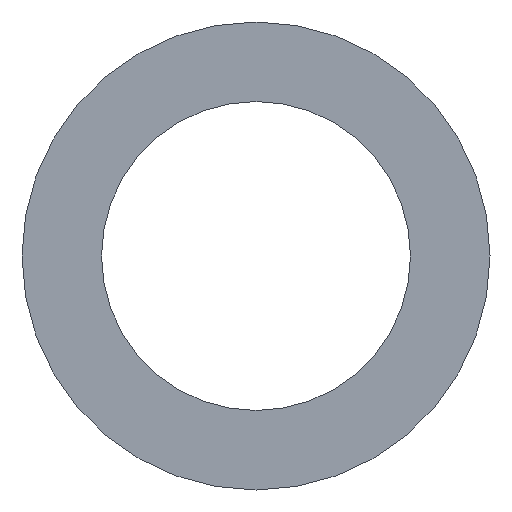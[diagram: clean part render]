
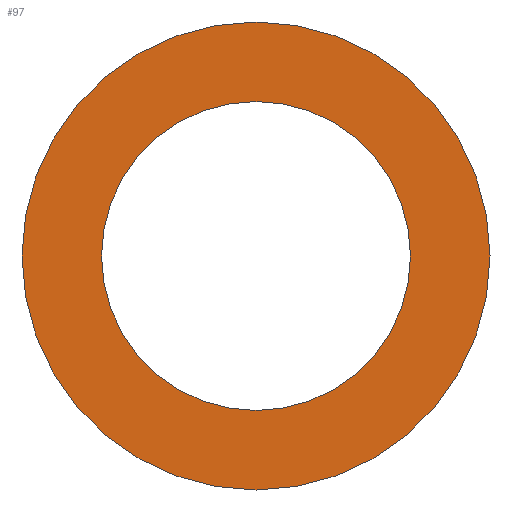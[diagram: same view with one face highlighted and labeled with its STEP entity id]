
A CAD part, front view. The second image highlights one B-rep face of the part: STEP entity #97.
In plain terms, the highlighted planar face has unit normal (0, -1, 0).
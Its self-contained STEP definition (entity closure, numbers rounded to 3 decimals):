
#21=FACE_BOUND('',#40,.T.);
#29=FACE_OUTER_BOUND('',#39,.T.);
#39=EDGE_LOOP('',(#79));
#40=EDGE_LOOP('',(#80));
#53=CIRCLE('',#109,35.);
#54=CIRCLE('',#111,53.);
#61=VERTEX_POINT('',#162);
#62=VERTEX_POINT('',#165);
#69=EDGE_CURVE('',#61,#61,#53,.T.);
#70=EDGE_CURVE('',#62,#62,#54,.T.);
#79=ORIENTED_EDGE('',*,*,#70,.F.);
#80=ORIENTED_EDGE('',*,*,#69,.T.);
#92=PLANE('',#110);
#97=ADVANCED_FACE('',(#29,#21),#92,.T.);
#109=AXIS2_PLACEMENT_3D('',#163,#131,#132);
#110=AXIS2_PLACEMENT_3D('',#164,#133,#134);
#111=AXIS2_PLACEMENT_3D('',#166,#135,#136);
#131=DIRECTION('center_axis',(0.,1.,0.));
#132=DIRECTION('ref_axis',(1.,0.,0.));
#133=DIRECTION('center_axis',(0.,-1.,0.));
#134=DIRECTION('ref_axis',(0.,0.,-1.));
#135=DIRECTION('center_axis',(0.,1.,0.));
#136=DIRECTION('ref_axis',(1.,0.,0.));
#162=CARTESIAN_POINT('',(-35.,0.,0.));
#163=CARTESIAN_POINT('Origin',(0.,0.,0.));
#164=CARTESIAN_POINT('Origin',(-53.,0.,0.));
#165=CARTESIAN_POINT('',(-53.,0.,0.));
#166=CARTESIAN_POINT('Origin',(0.,0.,0.));
